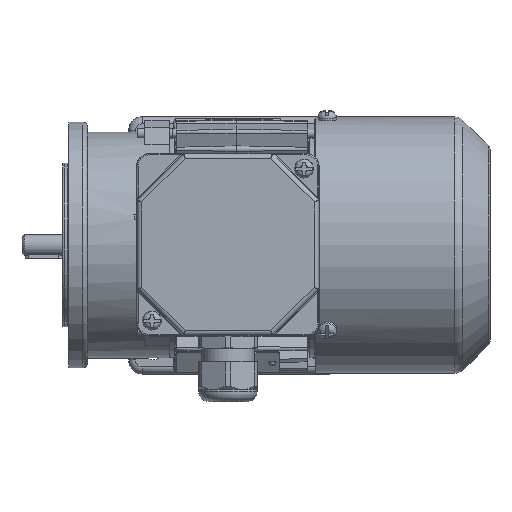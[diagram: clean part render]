
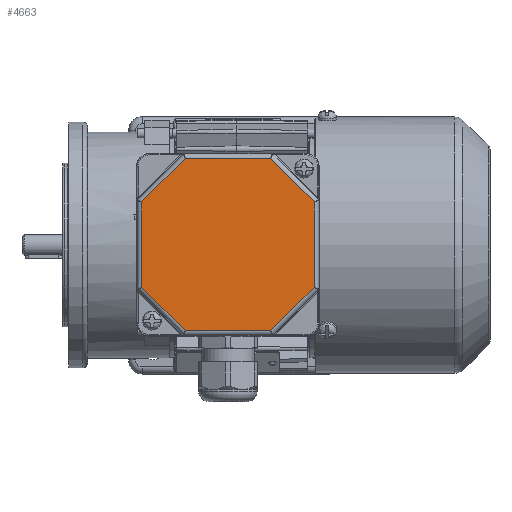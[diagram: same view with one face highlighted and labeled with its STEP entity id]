
A CAD part, top view. The second image highlights one B-rep face of the part: STEP entity #4663.
In plain terms, the highlighted planar face has unit normal (0, 0, 1).
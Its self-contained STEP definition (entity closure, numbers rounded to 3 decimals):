
#4663 = ADVANCED_FACE( '', ( #9663 ), #9664, .T. );
#9663 = FACE_OUTER_BOUND( '', #20361, .T. );
#9664 = PLANE( '', #20362 );
#20361 = EDGE_LOOP( '', ( #33897, #33898, #33899, #33900, #33901, #33902, #33903, #33904 ) );
#20362 = AXIS2_PLACEMENT_3D( '', #33905, #33906, #33907 );
#33897 = ORIENTED_EDGE( '', *, *, #41960, .T. );
#33898 = ORIENTED_EDGE( '', *, *, #44323, .T. );
#33899 = ORIENTED_EDGE( '', *, *, #42234, .T. );
#33900 = ORIENTED_EDGE( '', *, *, #44324, .T. );
#33901 = ORIENTED_EDGE( '', *, *, #43306, .T. );
#33902 = ORIENTED_EDGE( '', *, *, #43334, .T. );
#33903 = ORIENTED_EDGE( '', *, *, #44325, .T. );
#33904 = ORIENTED_EDGE( '', *, *, #42192, .T. );
#33905 = CARTESIAN_POINT( '', ( -39., 39., 12. ) );
#33906 = DIRECTION( '', ( 0., 0., 1. ) );
#33907 = DIRECTION( '', ( 1., 0., 0. ) );
#41960 = EDGE_CURVE( '', #47007, #45848, #49894, .F. );
#42192 = EDGE_CURVE( '', #50235, #47007, #50236, .T. );
#42234 = EDGE_CURVE( '', #50298, #49654, #50299, .F. );
#43306 = EDGE_CURVE( '', #51207, #48171, #51832, .F. );
#43334 = EDGE_CURVE( '', #48171, #49530, #51869, .T. );
#44323 = EDGE_CURVE( '', #45848, #50298, #53149, .T. );
#44324 = EDGE_CURVE( '', #49654, #51207, #53150, .T. );
#44325 = EDGE_CURVE( '', #49530, #50235, #53151, .F. );
#45848 = VERTEX_POINT( '', #54962 );
#47007 = VERTEX_POINT( '', #57657 );
#48171 = VERTEX_POINT( '', #59818 );
#49530 = VERTEX_POINT( '', #62147 );
#49654 = VERTEX_POINT( '', #62495 );
#49894 = LINE( '', #62991, #62992 );
#50235 = VERTEX_POINT( '', #63777 );
#50236 = LINE( '', #63778, #63779 );
#50298 = VERTEX_POINT( '', #63877 );
#50299 = LINE( '', #63878, #63879 );
#51207 = VERTEX_POINT( '', #65885 );
#51832 = LINE( '', #67266, #67267 );
#51869 = LINE( '', #67341, #67342 );
#53149 = LINE( '', #69960, #69961 );
#53150 = LINE( '', #69962, #69963 );
#53151 = LINE( '', #69964, #69965 );
#54962 = CARTESIAN_POINT( '', ( 36.825, 18.255, 12. ) );
#57657 = CARTESIAN_POINT( '', ( 36.825, -18.255, 12. ) );
#59818 = CARTESIAN_POINT( '', ( -36.825, -18.255, 12. ) );
#62147 = CARTESIAN_POINT( '', ( -18.255, -36.825, 12. ) );
#62495 = CARTESIAN_POINT( '', ( -18.255, 36.825, 12. ) );
#62991 = CARTESIAN_POINT( '', ( 36.825, 19.069, 12. ) );
#62992 = VECTOR( '', #75832, 1000. );
#63777 = CARTESIAN_POINT( '', ( 18.255, -36.825, 12. ) );
#63778 = CARTESIAN_POINT( '', ( 37.401, -17.679, 12. ) );
#63779 = VECTOR( '', #76088, 1000. );
#63877 = CARTESIAN_POINT( '', ( 18.255, 36.825, 12. ) );
#63878 = CARTESIAN_POINT( '', ( -19.069, 36.825, 12. ) );
#63879 = VECTOR( '', #76140, 1000. );
#65885 = CARTESIAN_POINT( '', ( -36.825, 18.255, 12. ) );
#67266 = CARTESIAN_POINT( '', ( -36.825, -19.069, 12. ) );
#67267 = VECTOR( '', #77437, 1000. );
#67341 = CARTESIAN_POINT( '', ( -17.679, -37.401, 12. ) );
#67342 = VECTOR( '', #77464, 1000. );
#69960 = CARTESIAN_POINT( '', ( 17.679, 37.401, 12. ) );
#69961 = VECTOR( '', #78510, 1000. );
#69962 = CARTESIAN_POINT( '', ( -37.401, 17.679, 12. ) );
#69963 = VECTOR( '', #78511, 1000. );
#69964 = CARTESIAN_POINT( '', ( 19.069, -36.825, 12. ) );
#69965 = VECTOR( '', #78512, 1000. );
#75832 = DIRECTION( '', ( 0., -1., 0. ) );
#76088 = DIRECTION( '', ( 0.707, 0.707, 0. ) );
#76140 = DIRECTION( '', ( 1., 0., 0. ) );
#77437 = DIRECTION( '', ( 0., 1., 0. ) );
#77464 = DIRECTION( '', ( 0.707, -0.707, 0. ) );
#78510 = DIRECTION( '', ( -0.707, 0.707, 0. ) );
#78511 = DIRECTION( '', ( -0.707, -0.707, 0. ) );
#78512 = DIRECTION( '', ( -1., 0., 0. ) );
